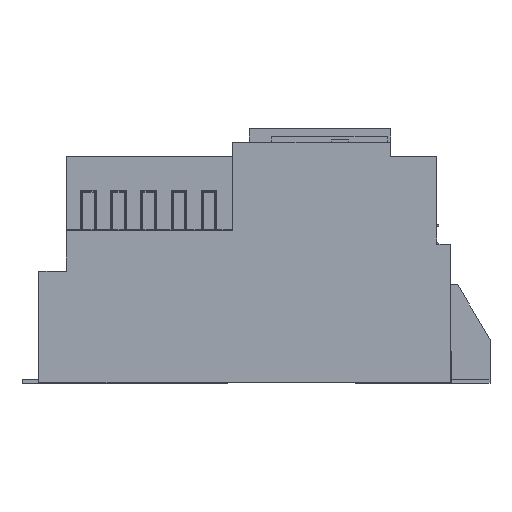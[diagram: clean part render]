
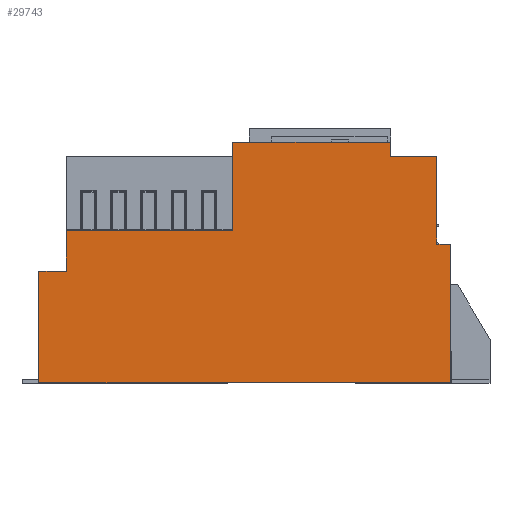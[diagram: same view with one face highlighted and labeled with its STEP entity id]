
A CAD part, left-side view. The second image highlights one B-rep face of the part: STEP entity #29743.
In plain terms, the highlighted planar face has unit normal (-1, 0, 0).
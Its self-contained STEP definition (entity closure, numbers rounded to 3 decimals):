
#866=DIRECTION('',(0.,0.,1.));
#867=VECTOR('',#866,100.9);
#868=CARTESIAN_POINT('',(0.,0.,0.));
#869=LINE('',#868,#867);
#1116=DIRECTION('',(0.,-1.,0.));
#1117=VECTOR('',#1116,121.2);
#1118=CARTESIAN_POINT('',(0.,280.,110.85));
#1119=LINE('',#1118,#1117);
#1123=DIRECTION('',(0.,0.,-1.));
#1124=VECTOR('',#1123,10.);
#1125=CARTESIAN_POINT('',(0.,43.8,175.));
#1126=LINE('',#1125,#1124);
#1130=DIRECTION('',(0.,-1.,0.));
#1131=VECTOR('',#1130,33.8);
#1132=CARTESIAN_POINT('',(0.,43.8,165.));
#1133=LINE('',#1132,#1131);
#1137=DIRECTION('',(0.,0.,-1.));
#1138=VECTOR('',#1137,64.1);
#1139=CARTESIAN_POINT('',(0.,10.,165.));
#1140=LINE('',#1139,#1138);
#1144=DIRECTION('',(0.,1.,0.));
#1145=VECTOR('',#1144,10.);
#1146=CARTESIAN_POINT('',(0.,0.,100.9));
#1147=LINE('',#1146,#1145);
#1151=DIRECTION('',(0.,0.,1.));
#1152=VECTOR('',#1151,81.05);
#1153=CARTESIAN_POINT('',(0.,300.,0.));
#1154=LINE('',#1153,#1152);
#1158=DIRECTION('',(0.,-1.,0.));
#1159=VECTOR('',#1158,20.);
#1160=CARTESIAN_POINT('',(0.,300.,81.05));
#1161=LINE('',#1160,#1159);
#1165=DIRECTION('',(0.,0.,1.));
#1166=VECTOR('',#1165,29.8);
#1167=CARTESIAN_POINT('',(0.,280.,81.05));
#1168=LINE('',#1167,#1166);
#1589=DIRECTION('',(0.,-1.,0.));
#1590=VECTOR('',#1589,300.);
#1591=CARTESIAN_POINT('',(0.,300.,0.));
#1592=LINE('',#1591,#1590);
#4050=DIRECTION('',(0.,1.,0.));
#4051=VECTOR('',#4050,115.);
#4052=CARTESIAN_POINT('',(0.,43.8,175.));
#4053=LINE('',#4052,#4051);
#4605=DIRECTION('',(0.,0.,-1.));
#4606=VECTOR('',#4605,64.15);
#4607=CARTESIAN_POINT('',(0.,158.8,175.));
#4608=LINE('',#4607,#4606);
#24302=CARTESIAN_POINT('',(0.,300.,0.));
#24303=CARTESIAN_POINT('',(0.,0.,0.));
#24304=VERTEX_POINT('',#24302);
#24305=VERTEX_POINT('',#24303);
#24318=CARTESIAN_POINT('',(0.,300.,81.05));
#24319=CARTESIAN_POINT('',(0.,280.,81.05));
#24320=VERTEX_POINT('',#24318);
#24321=VERTEX_POINT('',#24319);
#24322=CARTESIAN_POINT('',(0.,43.8,165.));
#24323=CARTESIAN_POINT('',(0.,10.,165.));
#24324=VERTEX_POINT('',#24322);
#24325=VERTEX_POINT('',#24323);
#24326=CARTESIAN_POINT('',(0.,10.,100.9));
#24327=VERTEX_POINT('',#24326);
#24328=CARTESIAN_POINT('',(0.,0.,100.9));
#24329=VERTEX_POINT('',#24328);
#24438=CARTESIAN_POINT('',(0.,43.8,175.));
#24439=VERTEX_POINT('',#24438);
#24440=CARTESIAN_POINT('',(0.,158.8,175.));
#24441=VERTEX_POINT('',#24440);
#26089=CARTESIAN_POINT('',(0.,280.,110.85));
#26090=CARTESIAN_POINT('',(0.,158.8,110.85));
#26091=VERTEX_POINT('',#26089);
#26092=VERTEX_POINT('',#26090);
#29714=CARTESIAN_POINT('',(0.,300.,0.));
#29715=DIRECTION('',(-1.,0.,0.));
#29716=DIRECTION('',(0.,-1.,0.));
#29717=AXIS2_PLACEMENT_3D('',#29714,#29715,#29716);
#29718=PLANE('',#29717);
#29720=ORIENTED_EDGE('',*,*,#29719,.T.);
#29722=ORIENTED_EDGE('',*,*,#29721,.F.);
#29724=ORIENTED_EDGE('',*,*,#29723,.F.);
#29726=ORIENTED_EDGE('',*,*,#29725,.T.);
#29728=ORIENTED_EDGE('',*,*,#29727,.T.);
#29730=ORIENTED_EDGE('',*,*,#29729,.T.);
#29731=ORIENTED_EDGE('',*,*,#29663,.F.);
#29732=ORIENTED_EDGE('',*,*,#29559,.F.);
#29734=ORIENTED_EDGE('',*,*,#29733,.F.);
#29736=ORIENTED_EDGE('',*,*,#29735,.T.);
#29738=ORIENTED_EDGE('',*,*,#29737,.T.);
#29740=ORIENTED_EDGE('',*,*,#29739,.T.);
#29741=EDGE_LOOP('',(#29720,#29722,#29724,#29726,#29728,#29730,#29731,#29732,
#29734,#29736,#29738,#29740));
#29742=FACE_OUTER_BOUND('',#29741,.F.);
#29559=EDGE_CURVE('',#24305,#24329,#869,.T.);
#29663=EDGE_CURVE('',#24329,#24327,#1147,.T.);
#29719=EDGE_CURVE('',#26091,#26092,#1119,.T.);
#29721=EDGE_CURVE('',#24441,#26092,#4608,.T.);
#29723=EDGE_CURVE('',#24439,#24441,#4053,.T.);
#29725=EDGE_CURVE('',#24439,#24324,#1126,.T.);
#29727=EDGE_CURVE('',#24324,#24325,#1133,.T.);
#29729=EDGE_CURVE('',#24325,#24327,#1140,.T.);
#29733=EDGE_CURVE('',#24304,#24305,#1592,.T.);
#29735=EDGE_CURVE('',#24304,#24320,#1154,.T.);
#29737=EDGE_CURVE('',#24320,#24321,#1161,.T.);
#29739=EDGE_CURVE('',#24321,#26091,#1168,.T.);
#29743=ADVANCED_FACE('',(#29742),#29718,.T.);
